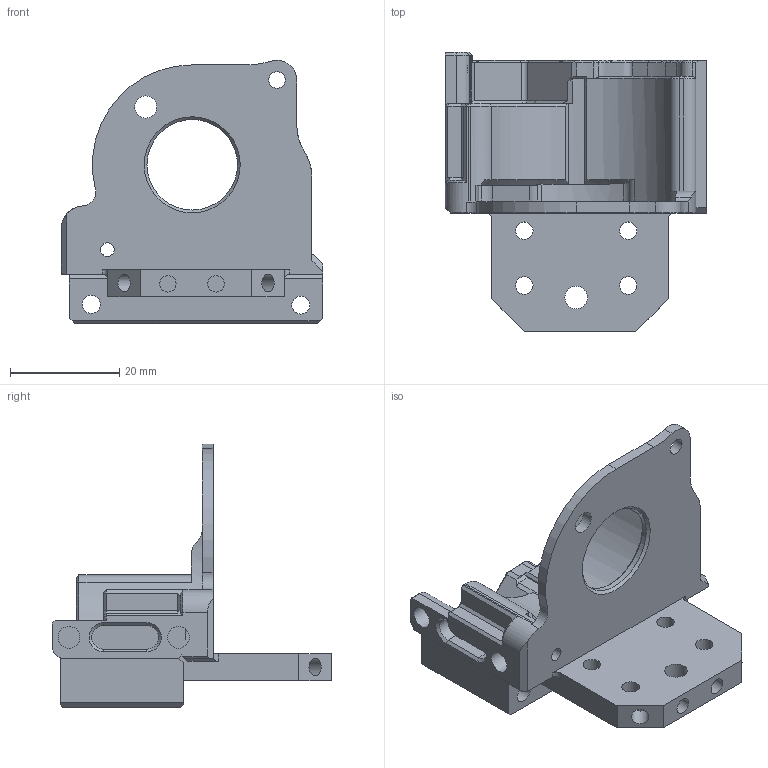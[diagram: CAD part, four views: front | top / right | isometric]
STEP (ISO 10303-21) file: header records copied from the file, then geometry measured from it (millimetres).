
FILE_DESCRIPTION(/* description */ (''),/* implementation_level */ '2;1');
FILE_NAME(/* name */ 'Y:/LGX_module_Flysth36.step',/* time_stamp */ '2022-03-27T13:56:01+02:00',/* author */ (''),/* organization */ (''),/* preprocessor_version */ 'ST-DEVELOPER v18.1',/* originating_system */ 'Autodesk Translation Framework v10.13.0.1454',/* authorisation */ '');
FILE_SCHEMA (('AUTOMOTIVE_DESIGN { 1 0 10303 214 3 1 1 }'));
Length unit declared in the file: millimetre
Products named in the file (1): LGX_module v13 v5
Bounding box: 47.79 x 51 x 48.13 mm (x, y, z)
Volume: 18662.2 mm3; surface area: 11973.9 mm2
Topology: 1 solids, 1 shells, 368 faces, 916 edges, 563 vertices
Faces by surface type: plane 177, cylinder 83, cone 74, bspline 34
Full cylindrical faces by diameter (mm): 2.5 x2, 3 x3, 3.2 x6, 3.3 x2, 3.6 x1, 4 x5, 4.05 x1, 4.15 x1, 16.55 x1
Entity records: 12546 total; most frequent: CARTESIAN_POINT 3830, ORIENTED_EDGE 1828, DIRECTION 1761, EDGE_CURVE 914, AXIS2_PLACEMENT_3D 599, LINE 563, VECTOR 563, VERTEX_POINT 563
